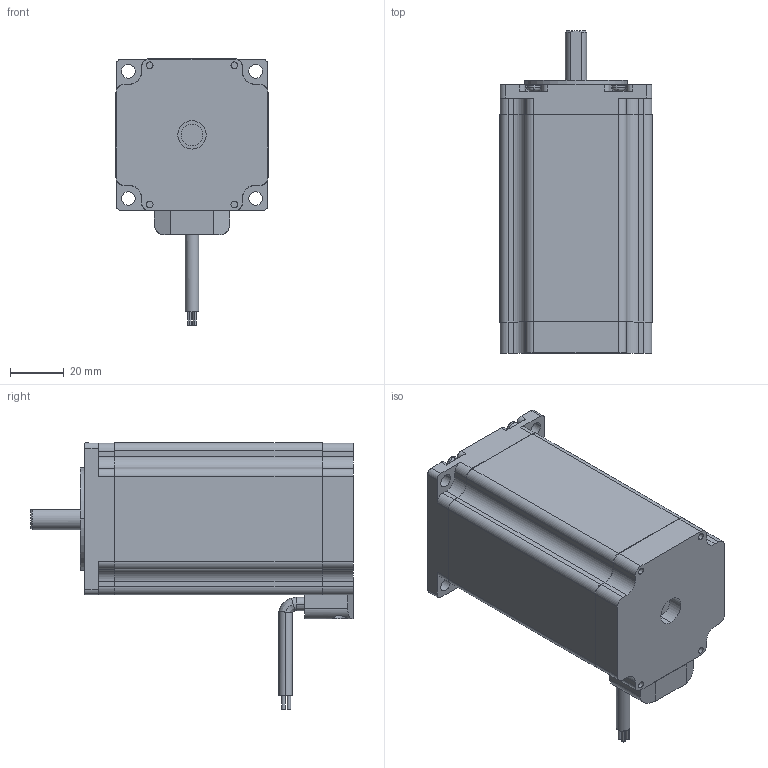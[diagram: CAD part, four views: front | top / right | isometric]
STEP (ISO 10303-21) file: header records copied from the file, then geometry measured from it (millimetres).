
FILE_DESCRIPTION (( 'STEP AP214' ), '1' );
FILE_NAME ('57BYGH2100-4004A-8.STEP', '2018-09-14T05:08:25', ( 'Windows' ), ( 'Microsoft' ), 'SwSTEP 2.0', 'SolidWorks 2015', '' );
FILE_SCHEMA (( 'AUTOMOTIVE_DESIGN' ));
Length unit declared in the file: millimetre
Products named in the file (7): 揤盄裔; M3蹟隊; 57BYGH2100A-8-20粣; 57ヶ傷裔; 57綴傷裔; 57隅赽77; 57BYGH2100-4004A-8
Assembly tree (9 placements, depth 2):
  57BYGH2100-4004A-8
    57隅赽77
    57綴傷裔
    57ヶ傷裔
    57BYGH2100A-8-20粣
    M3蹟隊  x4
    揤盄裔
Bounding box: 56.4 x 119.5 x 98.73 mm (x, y, z)
Volume: 293831.7 mm3; surface area: 49681.5 mm2
Topology: 9 solids, 9 shells, 294 faces, 766 edges, 500 vertices
Faces by surface type: cylinder 153, plane 117, torus 18, bspline 4, cone 2
Entity records: 8916 total; most frequent: CARTESIAN_POINT 1463, DIRECTION 1311, ORIENTED_EDGE 1190, EDGE_CURVE 595, AXIS2_PLACEMENT_3D 498, VERTEX_POINT 392, VECTOR 315, LINE 315
